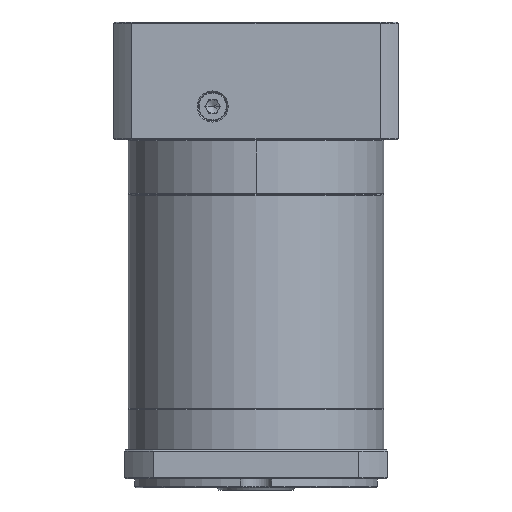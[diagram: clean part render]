
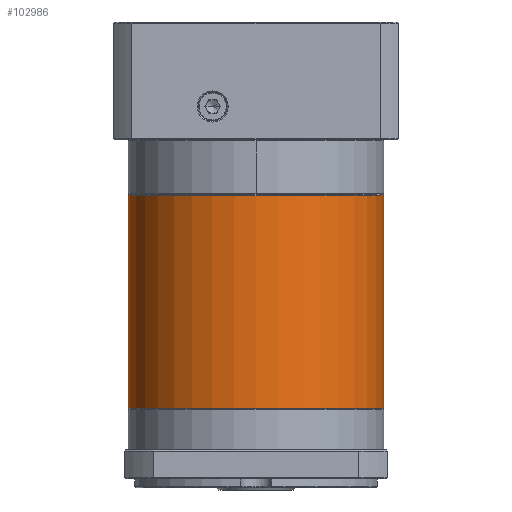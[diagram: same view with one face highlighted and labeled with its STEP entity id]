
A CAD part, front view. The second image highlights one B-rep face of the part: STEP entity #102986.
In plain terms, the highlighted cylindrical face has radius 57.5 mm (diameter 115 mm), a partial arc.
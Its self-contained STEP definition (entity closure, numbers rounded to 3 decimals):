
#416 = ORIENTED_EDGE ( 'NONE', *, *, #2994, .F. ) ;
#2994 = EDGE_CURVE ( 'NONE', #82445, #63318, #50018, .T. ) ;
#4193 = VECTOR ( 'NONE', #37793, 1000. ) ;
#9195 = EDGE_CURVE ( 'NONE', #82445, #15426, #46626, .T. ) ;
#9284 = DIRECTION ( 'NONE',  ( 0., 0., -1. ) ) ;
#10120 = CARTESIAN_POINT ( 'NONE',  ( 52.852, 81.618, -35.22 ) ) ;
#12112 = FACE_OUTER_BOUND ( 'NONE', #39371, .T. ) ;
#15001 = DIRECTION ( 'NONE',  ( 0., 0., -1. ) ) ;
#15426 = VERTEX_POINT ( 'NONE', #97843 ) ;
#16031 = CARTESIAN_POINT ( 'NONE',  ( -4.648, 81.618, -34.72 ) ) ;
#19502 = LINE ( 'NONE', #16031, #4193 ) ;
#27732 = DIRECTION ( 'NONE',  ( -1., 0., 0. ) ) ;
#28933 = DIRECTION ( 'NONE',  ( -1., 0., 0. ) ) ;
#31084 = CARTESIAN_POINT ( 'NONE',  ( -4.648, 81.618, -35.22 ) ) ;
#34210 = DIRECTION ( 'NONE',  ( -1., 0., 0. ) ) ;
#37793 = DIRECTION ( 'NONE',  ( 0., 0., -1. ) ) ;
#38148 = CARTESIAN_POINT ( 'NONE',  ( 52.852, 81.618, -34.72 ) ) ;
#39371 = EDGE_LOOP ( 'NONE', ( #416, #79868, #122910, #42980, #77727 ) ) ;
#41731 = AXIS2_PLACEMENT_3D ( 'NONE', #85201, #66441, #27732 ) ;
#42980 = ORIENTED_EDGE ( 'NONE', *, *, #93322, .T. ) ;
#43161 = CARTESIAN_POINT ( 'NONE',  ( 52.852, 81.618, -130.932 ) ) ;
#46626 = CIRCLE ( 'NONE', #41731, 57.5 ) ;
#48690 = AXIS2_PLACEMENT_3D ( 'NONE', #43161, #102418, #83190 ) ;
#50018 = LINE ( 'NONE', #70662, #120182 ) ;
#60505 = EDGE_CURVE ( 'NONE', #15426, #81999, #65078, .T. ) ;
#62912 = CARTESIAN_POINT ( 'NONE',  ( 110.352, 81.618, -130.932 ) ) ;
#62913 = DIRECTION ( 'NONE',  ( 0., 0., -1. ) ) ;
#63318 = VERTEX_POINT ( 'NONE', #62912 ) ;
#65062 = CYLINDRICAL_SURFACE ( 'NONE', #71749, 57.5 ) ;
#65078 = CIRCLE ( 'NONE', #65595, 57.5 ) ;
#65595 = AXIS2_PLACEMENT_3D ( 'NONE', #10120, #9284, #28933 ) ;
#66441 = DIRECTION ( 'NONE',  ( 0., 0., -1. ) ) ;
#67004 = EDGE_CURVE ( 'NONE', #106601, #63318, #122303, .T. ) ;
#68401 = CARTESIAN_POINT ( 'NONE',  ( -4.648, 81.618, -130.932 ) ) ;
#70662 = CARTESIAN_POINT ( 'NONE',  ( 110.352, 81.618, -34.72 ) ) ;
#71749 = AXIS2_PLACEMENT_3D ( 'NONE', #38148, #15001, #34210 ) ;
#77727 = ORIENTED_EDGE ( 'NONE', *, *, #67004, .T. ) ;
#79868 = ORIENTED_EDGE ( 'NONE', *, *, #9195, .T. ) ;
#81999 = VERTEX_POINT ( 'NONE', #31084 ) ;
#82445 = VERTEX_POINT ( 'NONE', #108022 ) ;
#83190 = DIRECTION ( 'NONE',  ( -1., 0., 0. ) ) ;
#85201 = CARTESIAN_POINT ( 'NONE',  ( 52.852, 81.618, -35.22 ) ) ;
#93322 = EDGE_CURVE ( 'NONE', #81999, #106601, #19502, .T. ) ;
#97843 = CARTESIAN_POINT ( 'NONE',  ( 52.852, 24.118, -35.22 ) ) ;
#102418 = DIRECTION ( 'NONE',  ( 0., 0., 1. ) ) ;
#102986 = ADVANCED_FACE ( 'NONE', ( #12112 ), #65062, .T. ) ;
#106601 = VERTEX_POINT ( 'NONE', #68401 ) ;
#108022 = CARTESIAN_POINT ( 'NONE',  ( 110.352, 81.618, -35.22 ) ) ;
#120182 = VECTOR ( 'NONE', #62913, 1000. ) ;
#122303 = CIRCLE ( 'NONE', #48690, 57.5 ) ;
#122910 = ORIENTED_EDGE ( 'NONE', *, *, #60505, .T. ) ;
